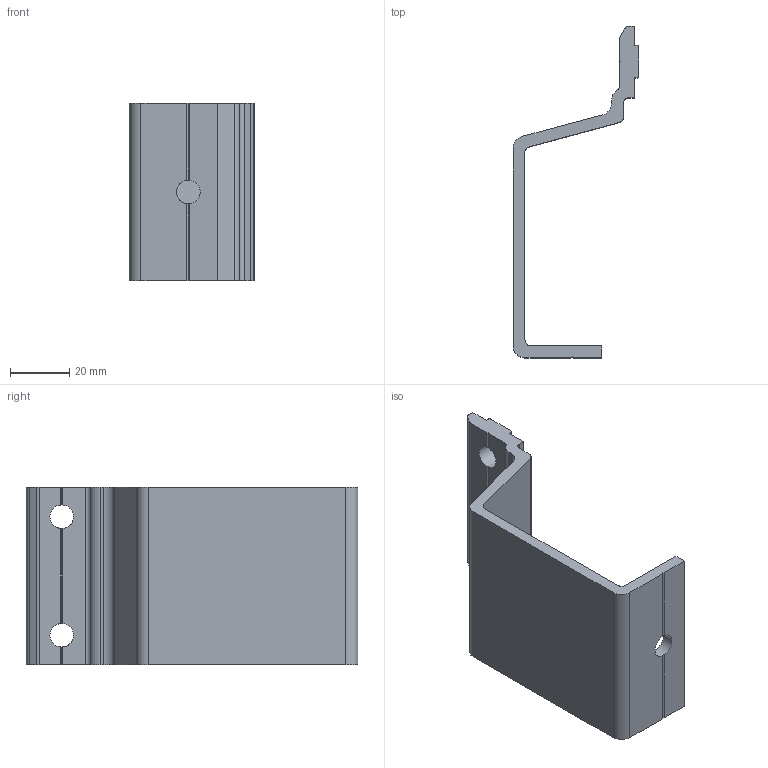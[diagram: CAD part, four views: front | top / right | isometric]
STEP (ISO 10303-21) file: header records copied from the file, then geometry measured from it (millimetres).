
FILE_DESCRIPTION((''),'2;1');
FILE_NAME('X:\Ritarkiv\STEP-Carryline Standarddelar\100-1235.stp','2009-05-11T13:41:19',('marcus'),(''),'Autodesk Inventor 2009','Autodesk Inventor 2009','');
FILE_SCHEMA(('AUTOMOTIVE_DESIGN { 1 0 10303 214 1 1 1 1 }'));
Length unit declared in the file: millimetre
Products named in the file (1): 100-1235
Bounding box: 42.5 x 112 x 60 mm (x, y, z)
Volume: 40763.4 mm3; surface area: 21656 mm2
Topology: 1 solids, 1 shells, 48 faces, 147 edges, 98 vertices
Faces by surface type: plane 32, cylinder 13, bspline 3
Entity records: 1693 total; most frequent: CARTESIAN_POINT 336, ORIENTED_EDGE 282, DIRECTION 280, EDGE_CURVE 141, VERTEX_POINT 95, VECTOR 94, LINE 94, AXIS2_PLACEMENT_3D 93
